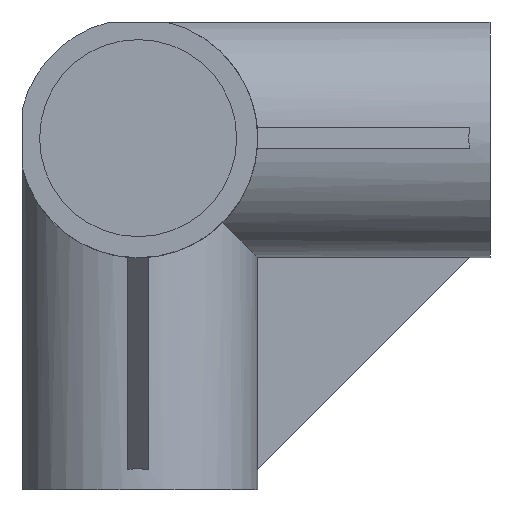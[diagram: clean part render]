
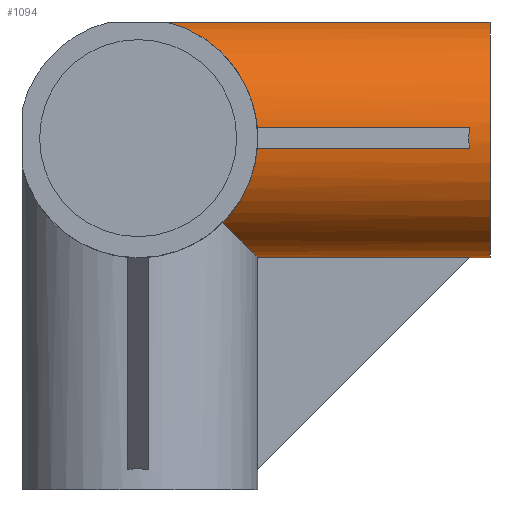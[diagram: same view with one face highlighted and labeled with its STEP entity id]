
A CAD part, front view. The second image highlights one B-rep face of the part: STEP entity #1094.
In plain terms, the highlighted cylindrical face has radius 17 mm (diameter 34 mm), a partial arc.
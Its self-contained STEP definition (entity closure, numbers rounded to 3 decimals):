
#3 =( BOUNDED_CURVE ( )  B_SPLINE_CURVE ( 3, ( #940, #638, #1254, #417 ),
 .UNSPECIFIED., .F., .F. ) 
 B_SPLINE_CURVE_WITH_KNOTS ( ( 4, 4 ),
 ( 3.053, 3.23 ),
 .UNSPECIFIED. ) 
 CURVE ( )  GEOMETRIC_REPRESENTATION_ITEM ( )  RATIONAL_B_SPLINE_CURVE ( ( 1., 0.997, 0.997, 1. ) ) 
 REPRESENTATION_ITEM ( '' )  );
#4 = DIRECTION ( 'NONE',  ( 0., 0., -1. ) ) ;
#13 = ORIENTED_EDGE ( 'NONE', *, *, #706, .T. ) ;
#37 = VERTEX_POINT ( 'NONE', #284 ) ;
#62 = ORIENTED_EDGE ( 'NONE', *, *, #469, .T. ) ;
#67 = DIRECTION ( 'NONE',  ( 1., 0., 0. ) ) ;
#95 = FACE_OUTER_BOUND ( 'NONE', #172, .T. ) ;
#104 = EDGE_CURVE ( 'NONE', #1240, #459, #397, .T. ) ;
#109 = DIRECTION ( 'NONE',  ( 1., 0., 0. ) ) ;
#112 = CARTESIAN_POINT ( 'NONE',  ( 14.872, -9.17, -14.872 ) ) ;
#116 = CARTESIAN_POINT ( 'NONE',  ( 47.022, -1.001, -16.978 ) ) ;
#123 = CARTESIAN_POINT ( 'NONE',  ( 47.066, -1.5, -16.934 ) ) ;
#132 = ORIENTED_EDGE ( 'NONE', *, *, #1208, .F. ) ;
#137 = VERTEX_POINT ( 'NONE', #1221 ) ;
#145 = EDGE_CURVE ( 'NONE', #532, #37, #523, .T. ) ;
#172 = EDGE_LOOP ( 'NONE', ( #62, #975, #1068, #13, #1309, #1228, #1165, #771, #1144, #132, #214 ) ) ;
#174 =( BOUNDED_CURVE ( )  B_SPLINE_CURVE ( 3, ( #1135, #526, #112, #724 ),
 .UNSPECIFIED., .F., .T. ) 
 B_SPLINE_CURVE_WITH_KNOTS ( ( 4, 4 ),
 ( 0.088, 0.785 ),
 .UNSPECIFIED. ) 
 CURVE ( )  GEOMETRIC_REPRESENTATION_ITEM ( )  RATIONAL_B_SPLINE_CURVE ( ( 1., 0.96, 0.96, 1. ) ) 
 REPRESENTATION_ITEM ( '' )  );
#176 = CARTESIAN_POINT ( 'NONE',  ( -17.001, -16.934, -1.5 ) ) ;
#207 = CARTESIAN_POINT ( 'NONE',  ( 16.934, -16.934, 1.5 ) ) ;
#209 = CARTESIAN_POINT ( 'NONE',  ( 16.934, -16.934, -1.5 ) ) ;
#214 = ORIENTED_EDGE ( 'NONE', *, *, #1002, .T. ) ;
#242 = EDGE_CURVE ( 'NONE', #37, #137, #618, .T. ) ;
#247 = AXIS2_PLACEMENT_3D ( 'NONE', #1003, #574, #4 ) ;
#249 = CARTESIAN_POINT ( 'NONE',  ( -17.001, -16.934, 1.5 ) ) ;
#255 = DIRECTION ( 'NONE',  ( 1., 0., 0. ) ) ;
#283 = LINE ( 'NONE', #1096, #301 ) ;
#284 = CARTESIAN_POINT ( 'NONE',  ( 16.934, -16.934, 1.5 ) ) ;
#301 = VECTOR ( 'NONE', #489, 1000. ) ;
#358 = VERTEX_POINT ( 'NONE', #460 ) ;
#373 = AXIS2_PLACEMENT_3D ( 'NONE', #703, #109, #1005 ) ;
#397 = LINE ( 'NONE', #806, #1177 ) ;
#406 = CARTESIAN_POINT ( 'NONE',  ( 14.872, -14.872, -9.17 ) ) ;
#417 = CARTESIAN_POINT ( 'NONE',  ( 47.066, -16.934, -1.5 ) ) ;
#419 = VERTEX_POINT ( 'NONE', #691 ) ;
#425 = EDGE_CURVE ( 'NONE', #137, #358, #3, .T. ) ;
#455 = VERTEX_POINT ( 'NONE', #1239 ) ;
#459 = VERTEX_POINT ( 'NONE', #1231 ) ;
#460 = CARTESIAN_POINT ( 'NONE',  ( 47.066, -16.934, -1.5 ) ) ;
#469 = EDGE_CURVE ( 'NONE', #419, #1240, #997, .T. ) ;
#489 = DIRECTION ( 'NONE',  ( -1., 0., 0. ) ) ;
#490 = DIRECTION ( 'NONE',  ( 1., 0., 0. ) ) ;
#523 =( BOUNDED_CURVE ( )  B_SPLINE_CURVE ( 3, ( #895, #1013, #611, #207 ),
 .UNSPECIFIED., .F., .T. ) 
 B_SPLINE_CURVE_WITH_KNOTS ( ( 4, 4 ),
 ( 4.956, 6.195 ),
 .UNSPECIFIED. ) 
 CURVE ( )  GEOMETRIC_REPRESENTATION_ITEM ( )  RATIONAL_B_SPLINE_CURVE ( ( 1., 0.876, 0.876, 1. ) ) 
 REPRESENTATION_ITEM ( '' )  );
#526 = CARTESIAN_POINT ( 'NONE',  ( 16.578, -5.516, -16.578 ) ) ;
#531 = CARTESIAN_POINT ( 'NONE',  ( 47., 0., -17. ) ) ;
#532 = VERTEX_POINT ( 'NONE', #1261 ) ;
#570 = EDGE_CURVE ( 'NONE', #455, #358, #768, .T. ) ;
#574 = DIRECTION ( 'NONE',  ( 1., 0., 0. ) ) ;
#608 = CARTESIAN_POINT ( 'NONE',  ( 16.578, -16.578, -5.516 ) ) ;
#611 = CARTESIAN_POINT ( 'NONE',  ( 16.271, -16.271, 8.984 ) ) ;
#618 = LINE ( 'NONE', #249, #881 ) ;
#638 = CARTESIAN_POINT ( 'NONE',  ( 46.978, -17.022, 0.501 ) ) ;
#691 = CARTESIAN_POINT ( 'NONE',  ( 47.066, -1.5, -16.934 ) ) ;
#703 = CARTESIAN_POINT ( 'NONE',  ( 50., 0., 0. ) ) ;
#706 = EDGE_CURVE ( 'NONE', #792, #532, #283, .T. ) ;
#716 = VECTOR ( 'NONE', #67, 1000. ) ;
#724 = CARTESIAN_POINT ( 'NONE',  ( 12.021, -12.021, -12.021 ) ) ;
#731 = CARTESIAN_POINT ( 'NONE',  ( 12.021, -12.021, -12.021 ) ) ;
#734 = DIRECTION ( 'NONE',  ( 1., 0., 0. ) ) ;
#751 = CARTESIAN_POINT ( 'NONE',  ( -17.001, -1.5, -16.934 ) ) ;
#754 = EDGE_CURVE ( 'NONE', #792, #459, #1007, .T. ) ;
#762 = CARTESIAN_POINT ( 'NONE',  ( 47., 0., -17. ) ) ;
#768 = LINE ( 'NONE', #176, #716 ) ;
#771 = ORIENTED_EDGE ( 'NONE', *, *, #570, .F. ) ;
#792 = VERTEX_POINT ( 'NONE', #1125 ) ;
#806 = CARTESIAN_POINT ( 'NONE',  ( -17.001, 0., -17. ) ) ;
#849 = CARTESIAN_POINT ( 'NONE',  ( 12.021, -12.021, -12.021 ) ) ;
#880 = CYLINDRICAL_SURFACE ( 'NONE', #247, 17. ) ;
#881 = VECTOR ( 'NONE', #734, 1000. ) ;
#895 = CARTESIAN_POINT ( 'NONE',  ( 4.093, -4.093, 16.5 ) ) ;
#940 = CARTESIAN_POINT ( 'NONE',  ( 47.066, -16.934, 1.5 ) ) ;
#943 = VERTEX_POINT ( 'NONE', #1066 ) ;
#975 = ORIENTED_EDGE ( 'NONE', *, *, #104, .T. ) ;
#997 =( BOUNDED_CURVE ( )  B_SPLINE_CURVE ( 3, ( #123, #116, #1051, #531 ),
 .UNSPECIFIED., .F., .F. ) 
 B_SPLINE_CURVE_WITH_KNOTS ( ( 4, 4 ),
 ( 3.053, 3.142 ),
 .UNSPECIFIED. ) 
 CURVE ( )  GEOMETRIC_REPRESENTATION_ITEM ( )  RATIONAL_B_SPLINE_CURVE ( ( 1., 0.999, 0.999, 1. ) ) 
 REPRESENTATION_ITEM ( '' )  );
#1002 = EDGE_CURVE ( 'NONE', #943, #419, #1076, .T. ) ;
#1003 = CARTESIAN_POINT ( 'NONE',  ( -17.001, 0., 0. ) ) ;
#1005 = DIRECTION ( 'NONE',  ( 0., 0., -1. ) ) ;
#1007 = CIRCLE ( 'NONE', #373, 17. ) ;
#1013 = CARTESIAN_POINT ( 'NONE',  ( 11.385, -11.385, 14.691 ) ) ;
#1051 = CARTESIAN_POINT ( 'NONE',  ( 47., -0.501, -17. ) ) ;
#1052 = VECTOR ( 'NONE', #255, 1000. ) ;
#1066 = CARTESIAN_POINT ( 'NONE',  ( 16.934, -1.5, -16.934 ) ) ;
#1068 = ORIENTED_EDGE ( 'NONE', *, *, #754, .F. ) ;
#1076 = LINE ( 'NONE', #751, #1052 ) ;
#1094 = ADVANCED_FACE ( 'NONE', ( #95 ), #880, .T. ) ;
#1096 = CARTESIAN_POINT ( 'NONE',  ( -17.001, -4.093, 16.5 ) ) ;
#1125 = CARTESIAN_POINT ( 'NONE',  ( 50., -4.093, 16.5 ) ) ;
#1135 = CARTESIAN_POINT ( 'NONE',  ( 16.934, -1.5, -16.934 ) ) ;
#1144 = ORIENTED_EDGE ( 'NONE', *, *, #1188, .T. ) ;
#1165 = ORIENTED_EDGE ( 'NONE', *, *, #425, .T. ) ;
#1177 = VECTOR ( 'NONE', #490, 1000. ) ;
#1184 =( BOUNDED_CURVE ( )  B_SPLINE_CURVE ( 3, ( #209, #608, #406, #731 ),
 .UNSPECIFIED., .F., .T. ) 
 B_SPLINE_CURVE_WITH_KNOTS ( ( 4, 4 ),
 ( 0.088, 0.785 ),
 .UNSPECIFIED. ) 
 CURVE ( )  GEOMETRIC_REPRESENTATION_ITEM ( )  RATIONAL_B_SPLINE_CURVE ( ( 1., 0.96, 0.96, 1. ) ) 
 REPRESENTATION_ITEM ( '' )  );
#1188 = EDGE_CURVE ( 'NONE', #455, #1275, #1184, .T. ) ;
#1208 = EDGE_CURVE ( 'NONE', #943, #1275, #174, .T. ) ;
#1221 = CARTESIAN_POINT ( 'NONE',  ( 47.066, -16.934, 1.5 ) ) ;
#1228 = ORIENTED_EDGE ( 'NONE', *, *, #242, .T. ) ;
#1231 = CARTESIAN_POINT ( 'NONE',  ( 50., 0., -17. ) ) ;
#1239 = CARTESIAN_POINT ( 'NONE',  ( 16.934, -16.934, -1.5 ) ) ;
#1240 = VERTEX_POINT ( 'NONE', #762 ) ;
#1254 = CARTESIAN_POINT ( 'NONE',  ( 46.978, -17.022, -0.501 ) ) ;
#1261 = CARTESIAN_POINT ( 'NONE',  ( 4.093, -4.093, 16.5 ) ) ;
#1275 = VERTEX_POINT ( 'NONE', #849 ) ;
#1309 = ORIENTED_EDGE ( 'NONE', *, *, #145, .T. ) ;
